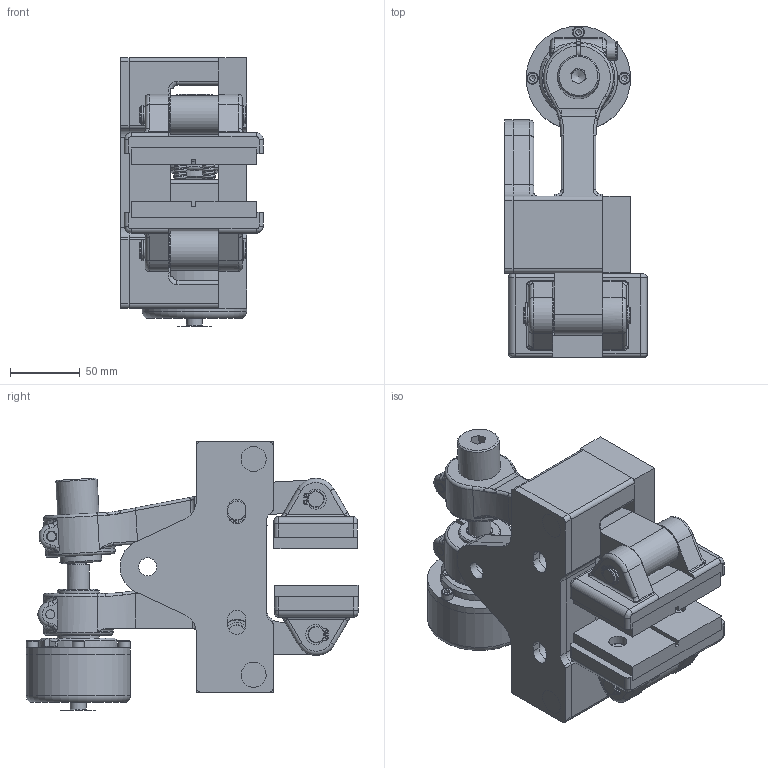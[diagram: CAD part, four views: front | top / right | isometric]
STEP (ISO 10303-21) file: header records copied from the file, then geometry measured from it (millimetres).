
FILE_DESCRIPTION(/* description */ ('','CAx-IF Rec.Pracs.---Representation and Presentation of Product Manufacturing Information (PMI)---4.0---2014-10-13'),/* implementation_level */ '2;1');
FILE_NAME(/* name */ 'X:\INVENTOR\DISEGNI\19_Pinze\STEP x Sito\PNEUM-POSITIVE\19_16_031_04 PPH031_25,4.stp',/* time_stamp */ '2018-02-14T10:21:28+01:00',/* author */ ('stefano'),/* organization */ (''),/* preprocessor_version */ 'ST-DEVELOPER v17',/* originating_system */ 'Autodesk Inventor 2018',/* authorisation */ '');
FILE_SCHEMA (('AP242_MANAGED_MODEL_BASED_3D_ENGINEERING_MIM_LF { 1 0 10303 442 1 1 4 }'));
Length unit declared in the file: millimetre
Products named in the file (1): 19_16_031_04 PPH031_25,4_Substitute_1
Bounding box: 102.5 x 238.5 x 193.1 mm (x, y, z)
Volume: 1615199.4 mm3; surface area: 218760.6 mm2
Topology: 1 solids, 1 shells, 930 faces, 2528 edges, 1637 vertices
Faces by surface type: plane 464, cylinder 267, bspline 72, cone 64, torus 62, sphere 1
Full cylindrical faces by diameter (mm): 1.7 x18, 5 x1, 6 x4, 6.5 x4, 6.647 x1, 8 x2, 8.5 x6, 9.5 x2, 10 x1, 11.445 x1, 11.5 x4, 12 x15, 13 x8, 13.4 x6, 13.5 x2, 14 x12, 16 x6, 16.5 x4, 19 x1, 21 x3, 22.6 x1, 30 x2, 35 x1, 56.5 x1, 75 x2
Entity records: 35279 total; most frequent: CARTESIAN_POINT 10770, DIRECTION 5042, ORIENTED_EDGE 4996, EDGE_CURVE 2498, AXIS2_PLACEMENT_3D 1903, VERTEX_POINT 1637, LINE 1236, VECTOR 1236
